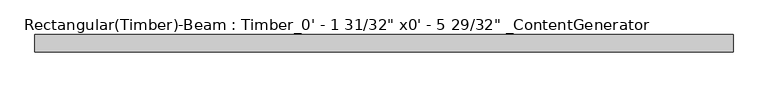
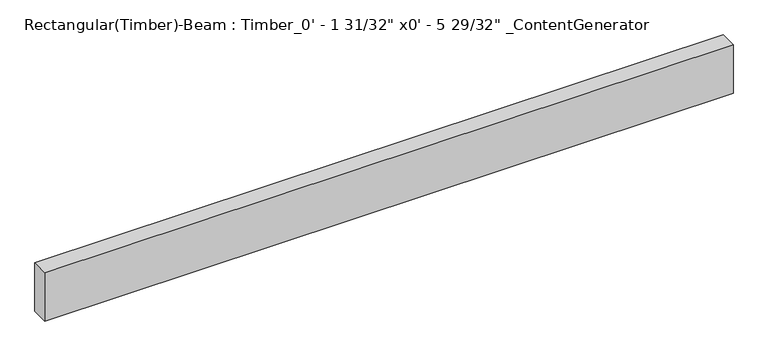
"""IFC4 building model written with IfcOpenShell, lengths in millimetres: beam geometry."""

import ifcopenshell
import ifcopenshell.guid

model = None  # the IFC model being written
_history = None  # IfcOwnerHistory: only IFC2X3 demands one
_inside = {}  # id of a spatial element -> (the spatial element, [elements in it])
_under = {}  # id of a project, library or spatial element -> (it, [spatial elements below it])
_declared = {}  # id of a project -> (the project, [libraries it declares])
_typed = {}  # id of a type object -> (the type object, [elements of that type])
_made_of = {}  # id of a material, layer set ... -> (it, [elements and type objects made of it])


def new_model(schema):
    """Start an empty IFC model of exactly this schema.

    Asked for "IFC4X3", IfcOpenShell would pick the latest addendum, in which some entities
    have other attributes; the version numbers below select the first issue.
    IFC2X3 requires an IfcOwnerHistory on every rooted entity: one is made here for all.
    """
    global model, _history
    if schema == "IFC4X3":
        model = ifcopenshell.file(schema_version=(4, 3, 0, 0))
    else:
        model = ifcopenshell.file(schema=schema)
    _inside.clear()
    _under.clear()
    _declared.clear()
    _typed.clear()
    _made_of.clear()
    _history = None
    if model.schema == "IFC2X3":
        org = make("IfcOrganization", Name="unknown")
        user = make(
            "IfcPersonAndOrganization",
            ThePerson=make("IfcPerson", FamilyName="unknown"),
            TheOrganization=org,
        )
        app = make(
            "IfcApplication",
            ApplicationDeveloper=org,
            Version="unknown",
            ApplicationFullName="unknown",
            ApplicationIdentifier="unknown",
        )
        _history = make(
            "IfcOwnerHistory",
            OwningUser=user,
            OwningApplication=app,
            ChangeAction="ADDED",
            CreationDate=0,
        )
    return model


def make(cls, **values):
    """One entity of the class cls with the attributes given. An attribute that is None is left unset."""
    return model.create_entity(
        cls, **{name: value for name, value in values.items() if value is not None}
    )


def rooted(cls, **values):
    """An entity with a GlobalId (a new one), such as an element, a storey or a relation."""
    return make(cls, GlobalId=ifcopenshell.guid.new(), OwnerHistory=_history, **values)


def si_unit(unit_type, name, prefix=None):
    """IfcSIUnit, for example si_unit("LENGTHUNIT", "METRE", prefix="MILLI")."""
    return make("IfcSIUnit", UnitType=unit_type, Prefix=prefix, Name=name)


def assignment(units):
    """IfcUnitAssignment: the units of a project."""
    return None if units is None else make("IfcUnitAssignment", Units=units)


def point(xyz):
    """IfcCartesianPoint."""
    return None if xyz is None else make("IfcCartesianPoint", Coordinates=xyz)


def direction(xyz):
    """IfcDirection."""
    return None if xyz is None else make("IfcDirection", DirectionRatios=xyz)


def frame(location, z_axis=None, x_axis=None):
    """IfcAxis2Placement3D, a coordinate frame: its origin and axes. An axis left out is left unset."""
    return make(
        "IfcAxis2Placement3D",
        Location=point(location),
        Axis=direction(z_axis),
        RefDirection=direction(x_axis),
    )


def origin():
    """The frame at (0, 0, 0) with its axes left unset."""
    return frame((0.0, 0.0, 0.0))


def place(relative_to, where):
    """IfcLocalPlacement: puts the frame where relative to a parent placement (None: the world)."""
    return make(
        "IfcLocalPlacement", PlacementRelTo=relative_to, RelativePlacement=where
    )


def context(
    kind, dimensions, precision=None, world=None, true_north=None, identifier=None
):
    """IfcGeometricRepresentationContext, for example the 3D "Model" context."""
    return make(
        "IfcGeometricRepresentationContext",
        ContextIdentifier=identifier,
        ContextType=kind,
        CoordinateSpaceDimension=dimensions,
        Precision=precision,
        WorldCoordinateSystem=world,
        TrueNorth=true_north,
    )


def project(units=None, contexts=None):
    """IfcProject with its units and contexts."""
    return rooted(
        "IfcProject",
        Name="project",
        RepresentationContexts=contexts,
        UnitsInContext=assignment(units),
    )


def spatial(cls, under=None, at=None, **own):
    """A site, building, storey or space (cls), placed at a placement, below another one or the project."""
    s = rooted(cls, ObjectPlacement=at, **own)
    if under is not None:
        _under.setdefault(under.id(), (under, []))[1].append(s)
    return s


def polyline(points):
    """IfcPolyline through the points."""
    return make("IfcPolyline", Points=[point(p) for p in points])


def outline(outer, holes=None, kind="AREA"):
    """IfcArbitraryClosedProfileDef: a profile drawn as a closed curve; with holes, ...WithVoids."""
    if holes is None:
        return make("IfcArbitraryClosedProfileDef", ProfileType=kind, OuterCurve=outer)
    return make(
        "IfcArbitraryProfileDefWithVoids",
        ProfileType=kind,
        OuterCurve=outer,
        InnerCurves=holes,
    )


def extrude(swept, where, along, depth):
    """IfcExtrudedAreaSolid: the profile swept, set in the frame where, extruded along a direction by depth."""
    return make(
        "IfcExtrudedAreaSolid",
        SweptArea=swept,
        Position=where,
        ExtrudedDirection=direction(along),
        Depth=depth,
    )


def shape(context_of_items, identifier, shape_type, items):
    """IfcShapeRepresentation: the items that make up one representation, for example the "Body"."""
    return make(
        "IfcShapeRepresentation",
        ContextOfItems=context_of_items,
        RepresentationIdentifier=identifier,
        RepresentationType=shape_type,
        Items=items,
    )


def source(mapping_origin, context_of_items, identifier, shape_type, items):
    """IfcRepresentationMap: a shape defined once, which mapped items show again and again."""
    return make(
        "IfcRepresentationMap",
        MappingOrigin=mapping_origin,
        MappedRepresentation=shape(context_of_items, identifier, shape_type, items),
    )


def transform(
    local_origin,
    x_axis=None,
    y_axis=None,
    z_axis=None,
    scale=None,
    scale2=None,
    scale3=None,
    uniform=True,
):
    """IfcCartesianTransformationOperator3D, or its non-uniform kind. x_axis, y_axis, z_axis: its Axis1, 2, 3."""
    if uniform:
        return make(
            "IfcCartesianTransformationOperator3D",
            Axis1=direction(x_axis),
            Axis2=direction(y_axis),
            LocalOrigin=point(local_origin),
            Scale=scale,
            Axis3=direction(z_axis),
        )
    return make(
        "IfcCartesianTransformationOperator3DnonUniform",
        Axis1=direction(x_axis),
        Axis2=direction(y_axis),
        LocalOrigin=point(local_origin),
        Scale=scale,
        Axis3=direction(z_axis),
        Scale2=scale2,
        Scale3=scale3,
    )


def mapped(mapping_source, mapping_target):
    """IfcMappedItem: shows the shape of a source again, moved by a transform."""
    return make(
        "IfcMappedItem", MappingSource=mapping_source, MappingTarget=mapping_target
    )


def made_of(thing, what):
    """Note that an element or type object is made of a material, layer set ...; save() writes the relation."""
    if what is not None:
        _made_of.setdefault(what.id(), (what, []))[1].append(thing)
    return thing


def element(
    cls,
    number,
    at=None,
    inside=None,
    cuts=None,
    type_object=None,
    material=None,
    context=None,
    identifier="Body",
    shape_type=None,
    held_by="IfcProductDefinitionShape",
    body=None,
    shapes=None,
    **own,
):
    """One element of the class cls, such as IfcWall. Its Tag is "e" and its number.

    at: its placement. inside: the storey or other place that contains it. cuts: it is an
    opening in that element (IfcRelVoidsElement). A single representation is given by context,
    identifier, shape_type and body (its items); several are given by shapes. held_by: the class
    of the entity that holds the representations. save() writes the other relations.
    """
    e = rooted(cls, Tag="e%d" % number, ObjectPlacement=at, **own)
    if body is not None:
        shapes = [shape(context, identifier, shape_type, body)]
    if shapes is not None:
        e.Representation = make(held_by, Representations=shapes)
    if inside is not None:
        _inside.setdefault(inside.id(), (inside, []))[1].append(e)
    if cuts is not None:
        rooted(
            "IfcRelVoidsElement", RelatingBuildingElement=cuts, RelatedOpeningElement=e
        )
    if type_object is not None:
        _typed.setdefault(type_object.id(), (type_object, []))[1].append(e)
    return made_of(e, material)


def aggregate(whole, parts):
    """IfcRelAggregates: a whole, such as a stair, and the parts it consists of."""
    return rooted("IfcRelAggregates", RelatingObject=whole, RelatedObjects=parts)


def save(model, path):
    """Write the relations noted so far, then the file.

    IfcRelAggregates (storeys below a building ...), IfcRelContainedInSpatialStructure (elements
    in a storey), IfcRelDefinesByType, IfcRelAssociatesMaterial and IfcRelDeclares: one each for
    every whole, place, type object, material and project.
    """
    for whole, parts in _under.values():
        aggregate(whole, parts)
    for where, things in _inside.values():
        rooted(
            "IfcRelContainedInSpatialStructure",
            RelatedElements=things,
            RelatingStructure=where,
        )
    for kind, things in _typed.values():
        rooted("IfcRelDefinesByType", RelatedObjects=things, RelatingType=kind)
    for what, things in _made_of.values():
        rooted("IfcRelAssociatesMaterial", RelatedObjects=things, RelatingMaterial=what)
    for by, libraries in _declared.values():
        rooted("IfcRelDeclares", RelatingContext=by, RelatedDefinitions=libraries)
    model.write(path)


def beam_6e482ad8(model_context):
    return source(origin(), model_context, "Body", "SweptSolid", [
        extrude(outline(polyline([(1025.525, 25.4), (1025.525, -25.4), (-1025.525, -25.4), (-1025.525, 25.4), (1025.525, 25.4)])), frame((0.0, 0.0, -76.2), z_axis=(0.0, 0.0, 1.0), x_axis=(1.0, 0.0, 0.0)), (0.0, 0.0, 1.0), 152.4),
    ])


if __name__ == "__main__":
    model = new_model("IFC4")
    model_context = context("Model", 3, world=origin())
    ifc_project = project(units=[si_unit("LENGTHUNIT", "METRE", prefix="MILLI")], contexts=[model_context])
    site = spatial("IfcSite", under=ifc_project)
    building = spatial("IfcBuilding", under=site)
    placement = place(None, origin())
    beam_shape = beam_6e482ad8(model_context)
    element("IfcBeam", 1, ObjectType="Rectangular(Timber)-Beam : Timber_0' - 1 31/32\" x0' - 5 29/32\" _ContentGenerator", at=placement, inside=building, context=model_context, shape_type="MappedRepresentation", body=[
        mapped(beam_shape, transform((0.0, 0.0, 0.0), x_axis=(1.0, 0.0, 0.0), y_axis=(0.0, 1.0, 0.0), z_axis=(0.0, 0.0, 1.0))),
    ])
    save(model, "model.ifc")
